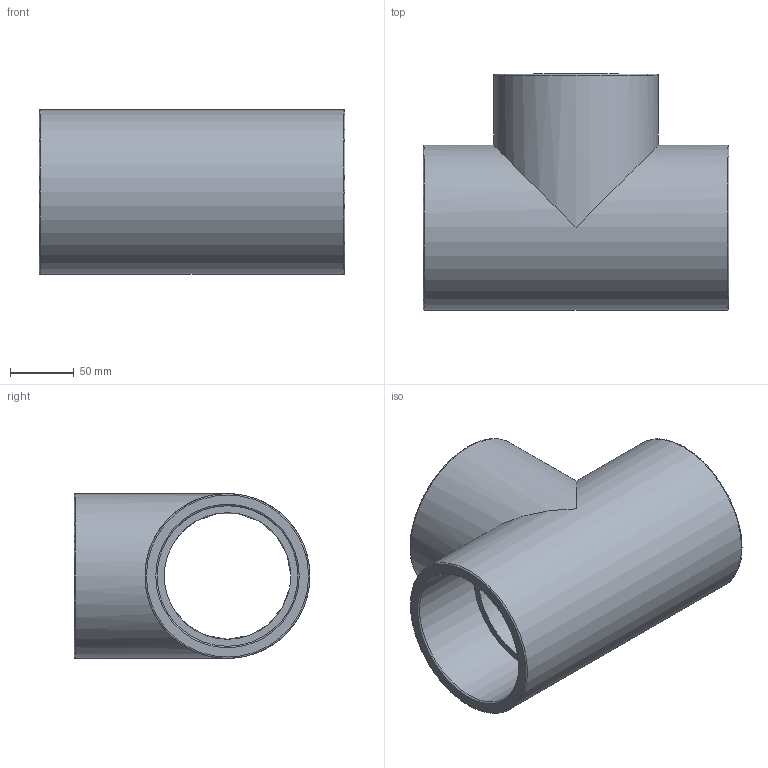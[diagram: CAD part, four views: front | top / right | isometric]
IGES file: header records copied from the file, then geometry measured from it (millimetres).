
Global section: file name: 050400110.ipt; native system: Autodesk Inventor 2015; preprocessor: unknown; author: KIM; date: 20171207.164440; units: millimetre
Bounding box: 239 x 184.5 x 129 mm (x, y, z)
Volume: 1205447.2 mm3; surface area: 225638.6 mm2
Topology: 1 solids, 1 shells, 19 faces, 60 edges, 46 vertices
Faces by surface type: revolution 11, plane 6, cylinder 2
Full cylindrical faces by diameter (mm): 129 x2
